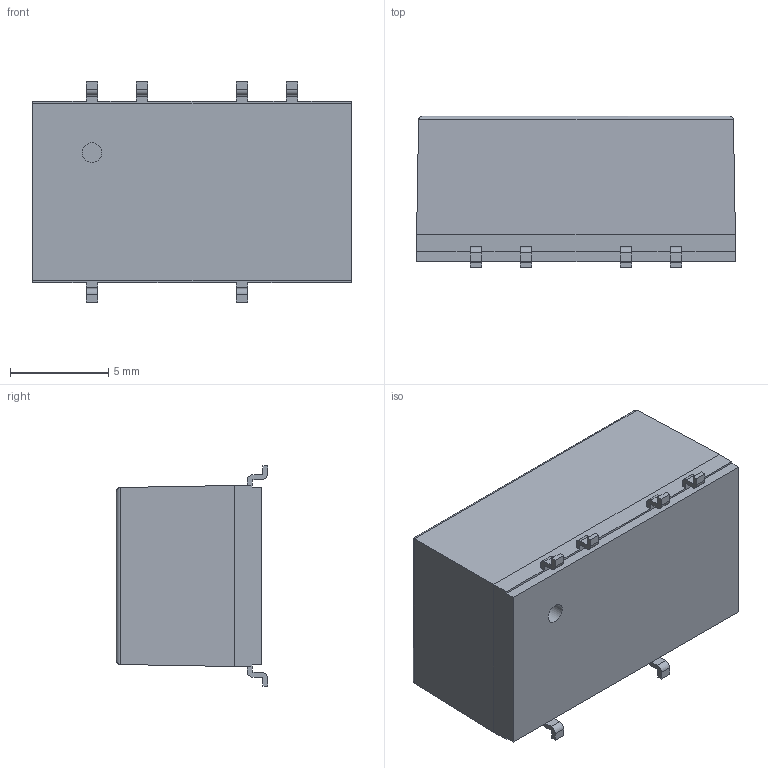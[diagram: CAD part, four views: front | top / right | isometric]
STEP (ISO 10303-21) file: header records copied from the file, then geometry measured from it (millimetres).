
FILE_DESCRIPTION (( 'STEP AP203' ), '1' );
FILE_NAME ('EC1SA SMD(Dual) 2023.07.21.STEP', '2023-07-21T10:17:04', ( '' ), ( '' ), 'SwSTEP 2.0', 'SolidWorks 2020', '' );
FILE_SCHEMA (( 'CONFIG_CONTROL_DESIGN' ));
Length unit declared in the file: millimetre
Products named in the file (1): EC1SA SMD(Dual) 2023.07.21
Bounding box: 16.2 x 7.7 x 11.2 mm (x, y, z)
Volume: 395.7 mm3; surface area: 1216.1 mm2
Topology: 1 solids, 1 shells, 338 faces, 904 edges, 585 vertices
Faces by surface type: plane 215, cylinder 65, bspline 48, sphere 6, torus 4
Full cylindrical faces by diameter (mm): 1 x1
Entity records: 14187 total; most frequent: CARTESIAN_POINT 6047, ORIENTED_EDGE 1792, DIRECTION 1456, EDGE_CURVE 896, VECTOR 670, LINE 670, VERTEX_POINT 584, AXIS2_PLACEMENT_3D 393
